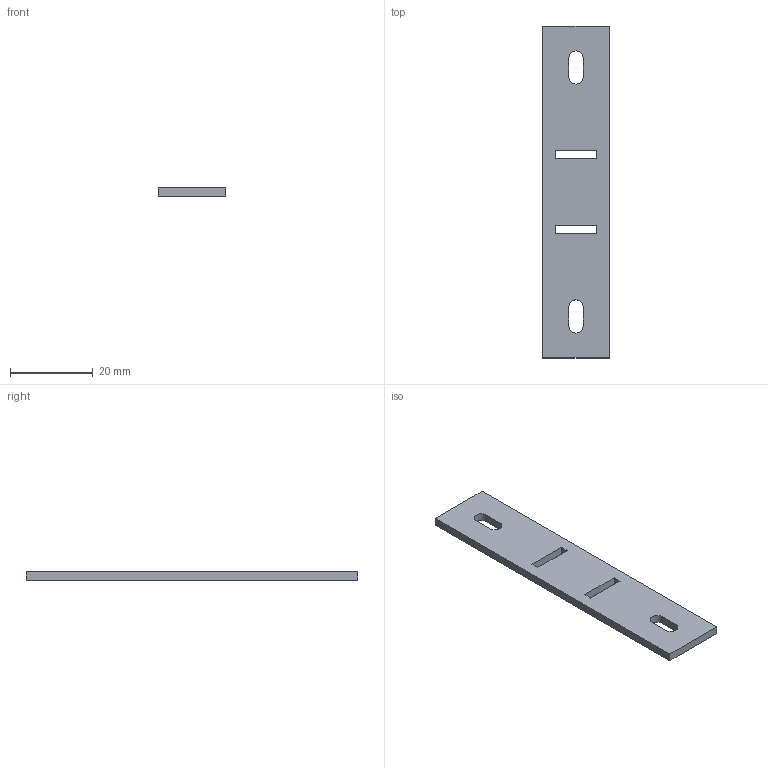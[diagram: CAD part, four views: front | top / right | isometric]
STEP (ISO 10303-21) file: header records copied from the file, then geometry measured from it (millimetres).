
FILE_DESCRIPTION(('Open CASCADE Model'),'2;1');
FILE_NAME('Open CASCADE Shape Model','2026-11-11T10:44:57',('Author'),( 'Open CASCADE'),'Open CASCADE STEP processor 7.9','Open CASCADE 7.9' ,'Unknown');
FILE_SCHEMA(('AUTOMOTIVE_DESIGN { 1 0 10303 214 1 1 1 1 }'));
Length unit declared in the file: millimetre
Products named in the file (1): Open CASCADE STEP translator 7.9 10
Bounding box: 16 x 80 x 2 mm (x, y, z)
Volume: 2381.1 mm3; surface area: 2940.6 mm2
Topology: 1 solids, 1 shells, 22 faces, 60 edges, 40 vertices
Faces by surface type: plane 18, cylinder 4
Entity records: 1522 total; most frequent: CARTESIAN_POINT 291, DIRECTION 226, LINE 164, VECTOR 164, ORIENTED_EDGE 120, PCURVE 120, DEFINITIONAL_REPRESENTATION 120, EDGE_CURVE 60
